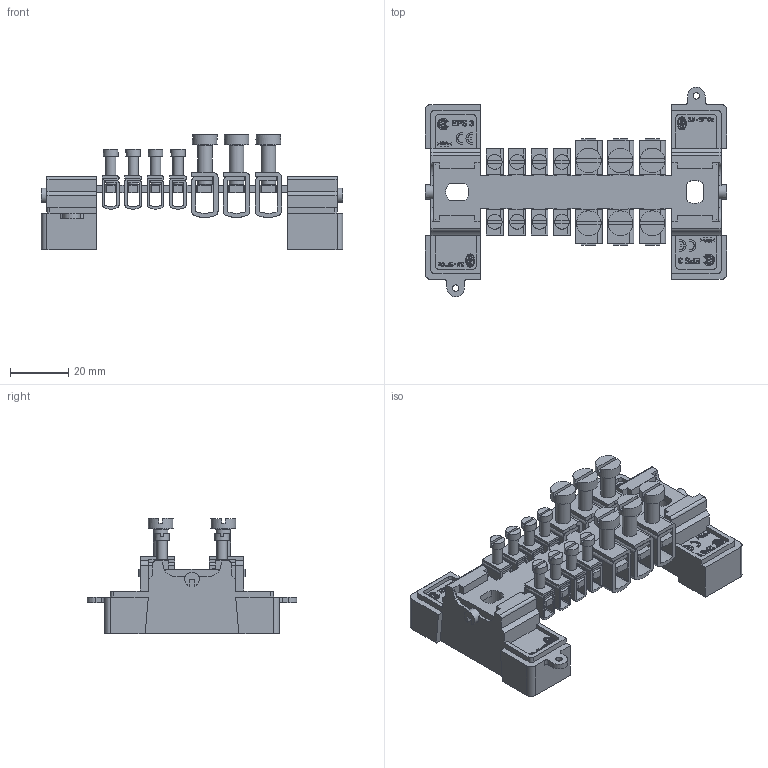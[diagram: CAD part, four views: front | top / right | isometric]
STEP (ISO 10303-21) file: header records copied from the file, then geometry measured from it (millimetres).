
FILE_DESCRIPTION(/* description */ ('Unknown'),/* implementation_level */ '2;1');
FILE_NAME(/* name */ 'eps 3',/* time_stamp */ '2021-07-13T12:33:40+02:00',/* author */ ('Unknown'),/* organization */ ('Unknown'),/* preprocessor_version */ 'ST-DEVELOPER v16.7',/* originating_system */ 'Solid Edge',/* authorisation */ 'Unknown');
FILE_SCHEMA (('AUTOMOTIVE_DESIGN { 1 0 10303 214 3 1 1 }','AUTOMOTIVE_DESIGN {1 0 10303 214 3 1 1}'));
Products named in the file (1): eps 3
Bounding box: 103.6 x 72 x 39.5 mm (x, y, z)
Volume: 31514.3 mm3; surface area: 36389.1 mm2
Topology: 5 solids, 5 shells, 1864 faces, 5240 edges, 3494 vertices
Faces by surface type: plane 1316, cylinder 464, bspline 56, cone 14, torus 14
Full cylindrical faces by diameter (mm): 2.2 x2, 3.5 x32, 3.6 x8, 4.8 x6, 5 x26, 8 x2, 8.5 x6
Entity records: 75126 total; most frequent: CARTESIAN_POINT 13915, ORIENTED_EDGE 10132, DIRECTION 9540, EDGE_CURVE 5066, LINE 3930, VECTOR 3930, VERTEX_POINT 3436, AXIS2_PLACEMENT_3D 2805
